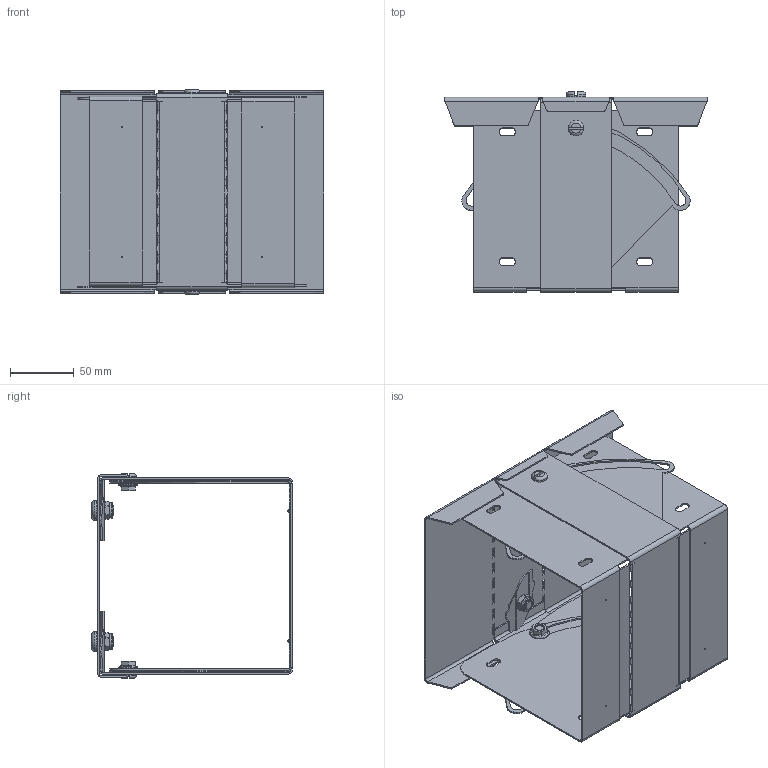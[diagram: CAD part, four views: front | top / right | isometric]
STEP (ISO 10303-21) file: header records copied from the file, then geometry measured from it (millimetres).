
FILE_DESCRIPTION (( 'STEP AP203' ), '1' );
FILE_NAME ('ct66vss.STEP', '2009-01-07T16:35:24', ( '' ), ( '' ), 'SwSTEP 2.0', 'SolidWorks 2007', '' );
FILE_SCHEMA (( 'CONFIG_CONTROL_DESIGN' ));
Length unit declared in the file: inch
Products named in the file (10): 87576345_87576345; 87935761_87935761; ct66vss; 87935733_87935733; 87935753_87935753; 87935743_87935743; 87575523_87575523; 87575532_87575532; 87576347; 87575574_87575574
Assembly tree (15 placements, depth 3):
  ct66vss
    87935733_87935733
      87935743_87935743  x2
      87935753_87935753
    87576345_87576345  x2
    87575532_87575532  x2
    87575523_87575523  x2
    87576347  x2
    87575574_87575574  x2
    87935761_87935761
Bounding box: 206.52 x 156.94 x 160.54 mm (x, y, z)
Volume: 194681.8 mm3; surface area: 330143.9 mm2
Topology: 14 solids, 14 shells, 1072 faces, 2810 edges, 1734 vertices
Faces by surface type: plane 638, cylinder 246, cone 90, bspline 52, torus 30, sphere 16
Entity records: 25963 total; most frequent: CARTESIAN_POINT 5709, ORIENTED_EDGE 3990, DIRECTION 3979, EDGE_CURVE 1995, AXIS2_PLACEMENT_3D 1357, VECTOR 1265, LINE 1265, VERTEX_POINT 1223
